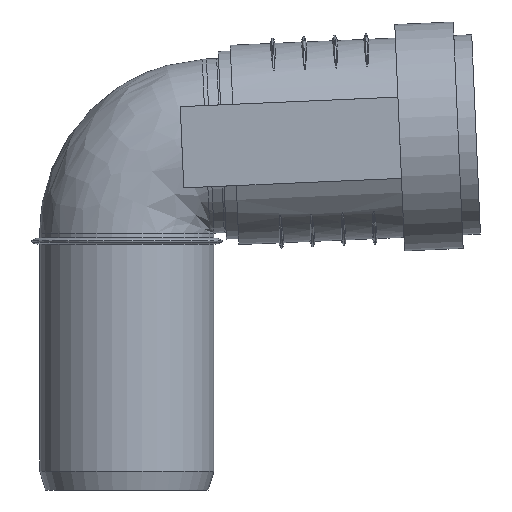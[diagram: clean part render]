
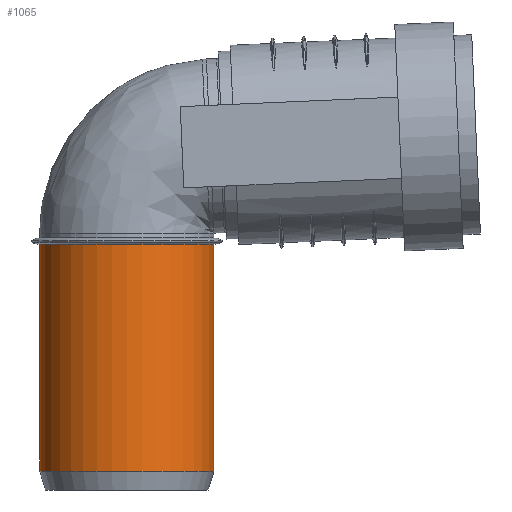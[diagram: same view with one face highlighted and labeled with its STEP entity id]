
A CAD part, front view. The second image highlights one B-rep face of the part: STEP entity #1065.
In plain terms, the highlighted cylindrical face has radius 16.075 mm (diameter 32.15 mm), a full revolution.
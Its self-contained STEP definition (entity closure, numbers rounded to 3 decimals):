
#190=CYLINDRICAL_SURFACE($,#1140,16.075);
#209=FACE_BOUND($,#314,.T.);
#252=FACE_OUTER_BOUND($,#313,.T.);
#313=EDGE_LOOP($,(#716));
#314=EDGE_LOOP($,(#717));
#414=CIRCLE($,#1138,16.075);
#416=CIRCLE($,#1141,16.075);
#469=VERTEX_POINT($,#1555);
#471=VERTEX_POINT($,#1560);
#575=EDGE_CURVE($,#469,#469,#414,.T.);
#577=EDGE_CURVE($,#471,#471,#416,.T.);
#716=ORIENTED_EDGE($,*,*,#577,.T.);
#717=ORIENTED_EDGE($,*,*,#575,.F.);
#1065=ADVANCED_FACE($,(#252,#209),#190,.T.);
#1138=AXIS2_PLACEMENT_3D($,#1556,#1267,#1268);
#1140=AXIS2_PLACEMENT_3D($,#1559,#1271,#1272);
#1141=AXIS2_PLACEMENT_3D($,#1561,#1273,#1274);
#1267=DIRECTION('center_axis',(0.,0.,-1.));
#1268=DIRECTION('ref_axis',(-1.,0.,0.));
#1271=DIRECTION('center_axis',(0.,0.,1.));
#1272=DIRECTION('ref_axis',(-1.,0.,0.));
#1273=DIRECTION('center_axis',(0.,0.,-1.));
#1274=DIRECTION('ref_axis',(-1.,0.,0.));
#1555=CARTESIAN_POINT('',(16.075,0.,3.5));
#1556=CARTESIAN_POINT('Origin',(0.,0.,3.5));
#1559=CARTESIAN_POINT('Origin',(0.,0.,0.));
#1560=CARTESIAN_POINT('',(-16.075,0.,45.3));
#1561=CARTESIAN_POINT('Origin',(0.,0.,45.3));
